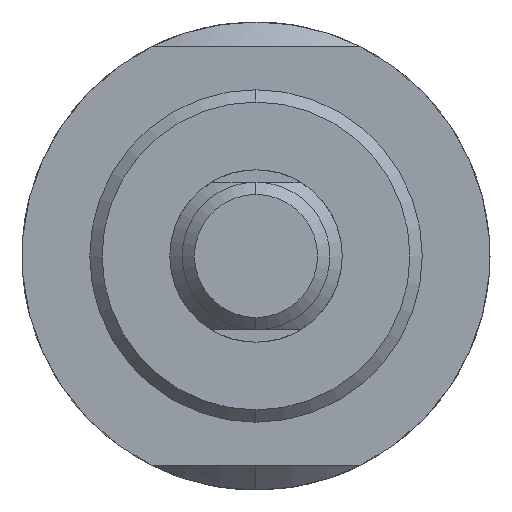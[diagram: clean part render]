
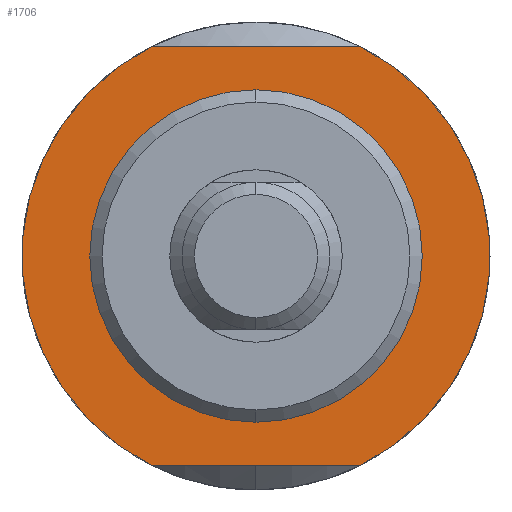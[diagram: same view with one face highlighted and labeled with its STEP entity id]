
A CAD part, left-side view. The second image highlights one B-rep face of the part: STEP entity #1706.
In plain terms, the highlighted planar face has unit normal (-1, 0, 0).
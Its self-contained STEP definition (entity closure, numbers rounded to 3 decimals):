
#1 = DIRECTION ( 'NONE',  ( 0., 0., 1. ) ) ;
#10 = ORIENTED_EDGE ( 'NONE', *, *, #137, .T. ) ;
#18 = CIRCLE ( 'NONE', #648, 19. ) ;
#39 = CARTESIAN_POINT ( 'NONE',  ( 48., 0., 0. ) ) ;
#60 = CIRCLE ( 'NONE', #1817, 19. ) ;
#137 = EDGE_CURVE ( 'NONE', #1497, #1897, #60, .T. ) ;
#198 = DIRECTION ( 'NONE',  ( 0., 1., 0. ) ) ;
#244 = CIRCLE ( 'NONE', #1824, 13.5 ) ;
#249 = VECTOR ( 'NONE', #198, 1000. ) ;
#273 = AXIS2_PLACEMENT_3D ( 'NONE', #785, #1507, #1715 ) ;
#345 = DIRECTION ( 'NONE',  ( -1., 0., 0. ) ) ;
#417 = EDGE_CURVE ( 'NONE', #698, #1511, #1666, .T. ) ;
#420 = DIRECTION ( 'NONE',  ( 0., 0., 1. ) ) ;
#450 = EDGE_LOOP ( 'NONE', ( #1453, #1342 ) ) ;
#478 = FACE_BOUND ( 'NONE', #450, .T. ) ;
#572 = PLANE ( 'NONE',  #273 ) ;
#582 = DIRECTION ( 'NONE',  ( 0., 0., 1. ) ) ;
#583 = CARTESIAN_POINT ( 'NONE',  ( 48., 15., -17. ) ) ;
#602 = CARTESIAN_POINT ( 'NONE',  ( 48., 8.485, 17. ) ) ;
#648 = AXIS2_PLACEMENT_3D ( 'NONE', #1572, #1440, #1543 ) ;
#654 = VERTEX_POINT ( 'NONE', #1486 ) ;
#661 = EDGE_CURVE ( 'NONE', #1511, #698, #244, .T. ) ;
#698 = VERTEX_POINT ( 'NONE', #1478 ) ;
#785 = CARTESIAN_POINT ( 'NONE',  ( 48., 0., -19. ) ) ;
#789 = CARTESIAN_POINT ( 'NONE',  ( 48., 0., 0. ) ) ;
#806 = EDGE_LOOP ( 'NONE', ( #10, #1661, #1428, #1047 ) ) ;
#864 = LINE ( 'NONE', #583, #249 ) ;
#933 = DIRECTION ( 'NONE',  ( 0., -1., 0. ) ) ;
#1047 = ORIENTED_EDGE ( 'NONE', *, *, #1377, .F. ) ;
#1177 = DIRECTION ( 'NONE',  ( -1., 0., 0. ) ) ;
#1247 = EDGE_CURVE ( 'NONE', #654, #1897, #864, .T. ) ;
#1295 = CARTESIAN_POINT ( 'NONE',  ( 48., 0., 0. ) ) ;
#1342 = ORIENTED_EDGE ( 'NONE', *, *, #417, .F. ) ;
#1369 = LINE ( 'NONE', #1887, #1889 ) ;
#1377 = EDGE_CURVE ( 'NONE', #1497, #1976, #1369, .T. ) ;
#1428 = ORIENTED_EDGE ( 'NONE', *, *, #1659, .T. ) ;
#1434 = CARTESIAN_POINT ( 'NONE',  ( 48., -8.485, 17. ) ) ;
#1439 = FACE_OUTER_BOUND ( 'NONE', #806, .T. ) ;
#1440 = DIRECTION ( 'NONE',  ( -1., 0., 0. ) ) ;
#1453 = ORIENTED_EDGE ( 'NONE', *, *, #661, .F. ) ;
#1478 = CARTESIAN_POINT ( 'NONE',  ( 48., 0., -13.5 ) ) ;
#1486 = CARTESIAN_POINT ( 'NONE',  ( 48., -8.485, -17. ) ) ;
#1497 = VERTEX_POINT ( 'NONE', #602 ) ;
#1507 = DIRECTION ( 'NONE',  ( 1., 0., 0. ) ) ;
#1511 = VERTEX_POINT ( 'NONE', #1764 ) ;
#1543 = DIRECTION ( 'NONE',  ( 0., 0., 1. ) ) ;
#1572 = CARTESIAN_POINT ( 'NONE',  ( 48., 0., 0. ) ) ;
#1659 = EDGE_CURVE ( 'NONE', #654, #1976, #18, .T. ) ;
#1661 = ORIENTED_EDGE ( 'NONE', *, *, #1247, .F. ) ;
#1666 = CIRCLE ( 'NONE', #1701, 13.5 ) ;
#1701 = AXIS2_PLACEMENT_3D ( 'NONE', #39, #1177, #1 ) ;
#1706 = ADVANCED_FACE ( 'NONE', ( #478, #1439 ), #572, .F. ) ;
#1715 = DIRECTION ( 'NONE',  ( 0., 0., -1. ) ) ;
#1764 = CARTESIAN_POINT ( 'NONE',  ( 48., 0., 13.5 ) ) ;
#1817 = AXIS2_PLACEMENT_3D ( 'NONE', #789, #1934, #420 ) ;
#1824 = AXIS2_PLACEMENT_3D ( 'NONE', #1295, #345, #582 ) ;
#1887 = CARTESIAN_POINT ( 'NONE',  ( 48., 15., 17. ) ) ;
#1889 = VECTOR ( 'NONE', #933, 1000. ) ;
#1897 = VERTEX_POINT ( 'NONE', #1909 ) ;
#1909 = CARTESIAN_POINT ( 'NONE',  ( 48., 8.485, -17. ) ) ;
#1934 = DIRECTION ( 'NONE',  ( -1., 0., 0. ) ) ;
#1976 = VERTEX_POINT ( 'NONE', #1434 ) ;
